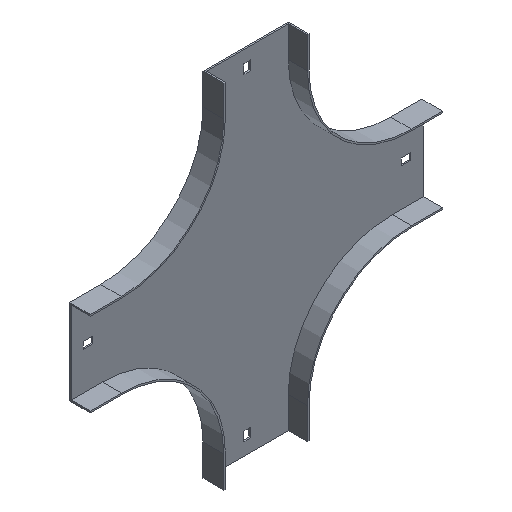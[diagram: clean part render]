
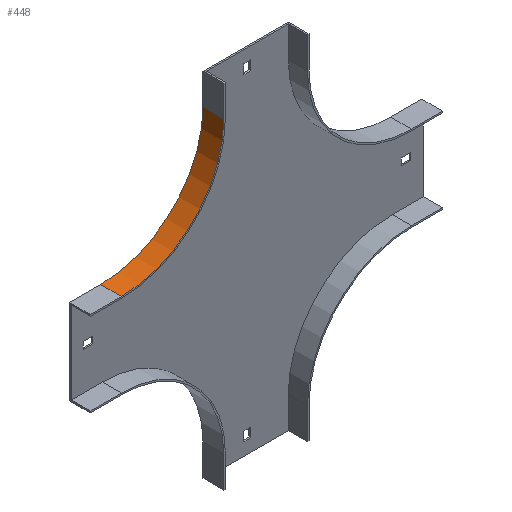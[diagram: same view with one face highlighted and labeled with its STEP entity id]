
A CAD part, isometric view. The second image highlights one B-rep face of the part: STEP entity #448.
In plain terms, the highlighted cylindrical face has radius 98.5 mm (diameter 197 mm), a partial arc.
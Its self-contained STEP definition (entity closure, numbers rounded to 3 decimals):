
#40 = VERTEX_POINT ( 'NONE', #964 ) ;
#219 = DIRECTION ( 'NONE',  ( 0., -1., 0. ) ) ;
#223 = CYLINDRICAL_SURFACE ( 'NONE', #1352, 98.5 ) ;
#300 = VECTOR ( 'NONE', #1131, 1000. ) ;
#357 = DIRECTION ( 'NONE',  ( 0., 1., 0. ) ) ;
#381 = DIRECTION ( 'NONE',  ( 0., -1., 0. ) ) ;
#399 = VERTEX_POINT ( 'NONE', #1039 ) ;
#448 = ADVANCED_FACE ( 'NONE', ( #700 ), #223, .F. ) ;
#484 = CARTESIAN_POINT ( 'NONE',  ( -180.5, -20., 0. ) ) ;
#491 = EDGE_LOOP ( 'NONE', ( #553, #736, #1014, #594 ) ) ;
#553 = ORIENTED_EDGE ( 'NONE', *, *, #991, .F. ) ;
#560 = DIRECTION ( 'NONE',  ( 0., 0., 1. ) ) ;
#594 = ORIENTED_EDGE ( 'NONE', *, *, #1025, .T. ) ;
#609 = EDGE_CURVE ( 'NONE', #1300, #789, #620, .T. ) ;
#620 = LINE ( 'NONE', #1287, #300 ) ;
#700 = FACE_OUTER_BOUND ( 'NONE', #491, .T. ) ;
#707 = CARTESIAN_POINT ( 'NONE',  ( -279., 0., -98.5 ) ) ;
#736 = ORIENTED_EDGE ( 'NONE', *, *, #609, .F. ) ;
#789 = VERTEX_POINT ( 'NONE', #707 ) ;
#846 = DIRECTION ( 'NONE',  ( 0., 0., 1. ) ) ;
#889 = CARTESIAN_POINT ( 'NONE',  ( -279., 0., 0. ) ) ;
#896 = DIRECTION ( 'NONE',  ( 0., 0., 1. ) ) ;
#956 = CARTESIAN_POINT ( 'NONE',  ( -279., -20., 0. ) ) ;
#964 = CARTESIAN_POINT ( 'NONE',  ( -180.5, 0., 0. ) ) ;
#991 = EDGE_CURVE ( 'NONE', #789, #40, #1333, .T. ) ;
#1001 = DIRECTION ( 'NONE',  ( 0., 1., 0. ) ) ;
#1014 = ORIENTED_EDGE ( 'NONE', *, *, #1232, .T. ) ;
#1025 = EDGE_CURVE ( 'NONE', #399, #40, #1036, .T. ) ;
#1036 = LINE ( 'NONE', #484, #1554 ) ;
#1039 = CARTESIAN_POINT ( 'NONE',  ( -180.5, -20., 0. ) ) ;
#1104 = CIRCLE ( 'NONE', #1497, 98.5 ) ;
#1131 = DIRECTION ( 'NONE',  ( 0., 1., 0. ) ) ;
#1200 = AXIS2_PLACEMENT_3D ( 'NONE', #889, #381, #896 ) ;
#1217 = CARTESIAN_POINT ( 'NONE',  ( -279., -20., 0. ) ) ;
#1232 = EDGE_CURVE ( 'NONE', #1300, #399, #1104, .T. ) ;
#1287 = CARTESIAN_POINT ( 'NONE',  ( -279., -20., -98.5 ) ) ;
#1300 = VERTEX_POINT ( 'NONE', #1478 ) ;
#1333 = CIRCLE ( 'NONE', #1200, 98.5 ) ;
#1352 = AXIS2_PLACEMENT_3D ( 'NONE', #956, #357, #560 ) ;
#1478 = CARTESIAN_POINT ( 'NONE',  ( -279., -20., -98.5 ) ) ;
#1497 = AXIS2_PLACEMENT_3D ( 'NONE', #1217, #219, #846 ) ;
#1554 = VECTOR ( 'NONE', #1001, 1000. ) ;
